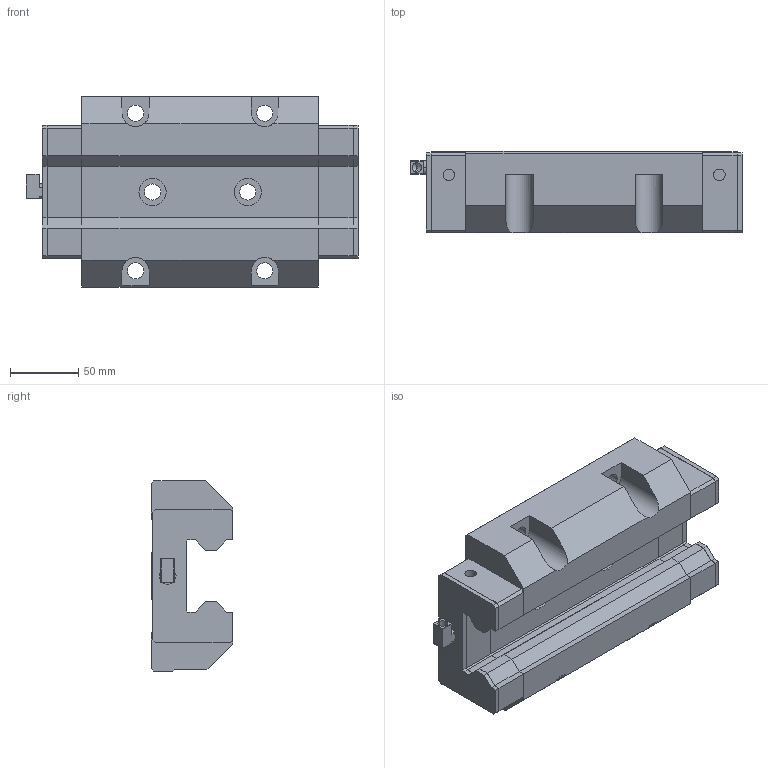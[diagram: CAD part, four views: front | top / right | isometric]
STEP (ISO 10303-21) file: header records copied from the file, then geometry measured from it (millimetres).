
FILE_DESCRIPTION (( 'STEP AP203' ), '1' );
FILE_NAME ('SGW55HC.STEP', '2025-07-11T04:59:29', ( 'Owner' ), ( 'Organization' ), 'SwSTEP 2.0', 'SolidWorks 2020', '' );
FILE_SCHEMA (( 'CONFIG_CONTROL_DESIGN' ));
Length unit declared in the file: millimetre
Products named in the file (1): SGW55HC
Bounding box: 244 x 60 x 140 mm (x, y, z)
Volume: 1279625.2 mm3; surface area: 160764 mm2
Topology: 7 solids, 7 shells, 319 faces, 790 edges, 501 vertices
Faces by surface type: plane 257, cylinder 58, cone 4
Entity records: 9355 total; most frequent: CARTESIAN_POINT 1651, ORIENTED_EDGE 1576, DIRECTION 1534, EDGE_CURVE 788, VECTOR 654, LINE 654, VERTEX_POINT 501, AXIS2_PLACEMENT_3D 440
